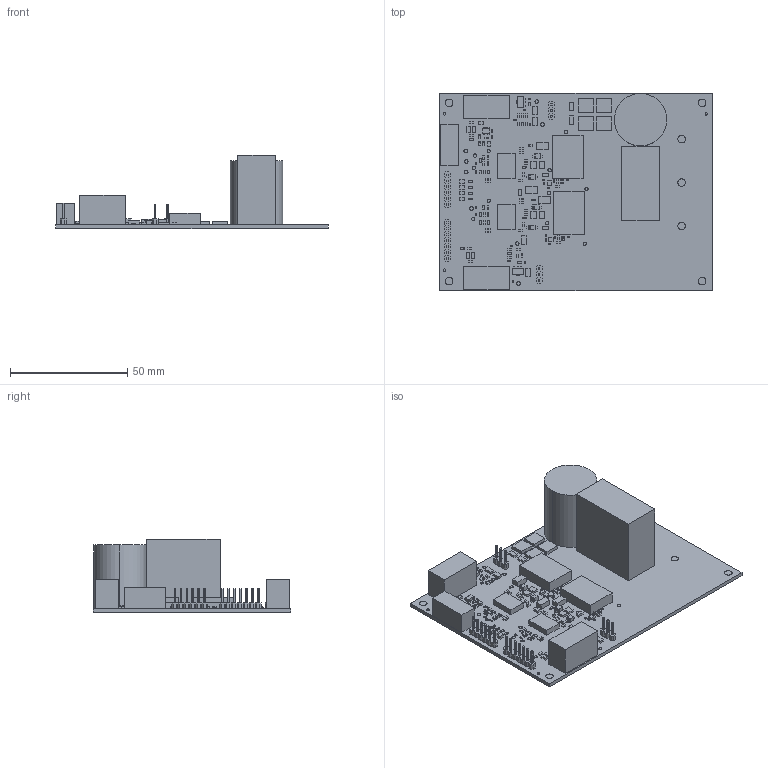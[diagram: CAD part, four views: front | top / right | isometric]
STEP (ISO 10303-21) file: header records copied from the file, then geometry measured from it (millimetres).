
FILE_DESCRIPTION(/* description */ ('PCB Design'),/* implementation_level */ '2;1');
FILE_NAME(/* name */ 'EVLSTGAP3S6R2_3D',/* time_stamp */ '2025-01-10T10:58:14+01:00',/* author */ (''),/* organization */ (''),/* preprocessor_version */ 'ST-DEVELOPER v16',/* originating_system */ 'allegro_17.2S078',/* authorisation */ '');
FILE_SCHEMA (('AUTOMOTIVE_DESIGN { 1 0 10303 214 3 1 1 }'));
Length unit declared in the file: millimetre
Products named in the file (38): EVLSTGAP3S6-R2_250110; BOARD_OUTLINE; COMPONENTS; D2PAK; H2PAK-7; SOT-89; CAPE-R22H50-P100; STRIP_3V; PAD-10F3_2; C0402; DO-214AC; HOLE3_2PAD6_5; FIDUCIAL1MM; SOD-123; TP-1_5; TP-F0_8_PAD_1_35; C1206; R0402; R1210; R0603; R1206; LED-0805; CAP-RAD-16X31_5H29_5P27_5; R0805; SOD-523; C2225; C0805; C0603; SOT23-5L; MORS_WR-TBL_691243110005_5P_3V5; CONV_MGJ2; STRIP_6V; STRIP_7V; POWERFLAT6-2X2_P065-E; SO16_L10_4; Document
Assembly tree (184 placements, depth 4):
  EVLSTGAP3S6-R2_250110
    BOARD_OUTLINE
    COMPONENTS
      D2PAK  x2
      H2PAK-7  x2
        Document
      SOT-89  x2
      CAPE-R22H50-P100
      STRIP_3V  x2
      PAD-10F3_2  x3
      C0402  x2
      DO-214AC  x3
      HOLE3_2PAD6_5  x4
      FIDUCIAL1MM  x3
      SOD-123  x4
      TP-1_5  x9
      TP-F0_8_PAD_1_35  x10
      C1206  x4
      R0402  x28
        Document
      R1210  x4
      R0603  x26
        Document
      R1206  x2
      LED-0805  x4
      CAP-RAD-16X31_5H29_5P27_5
      R0805  x7
      SOD-523  x6
      C2225  x4
      C0805  x2
      C0603  x34
      SOT23-5L
      MORS_WR-TBL_691243110005_5P_3V5
      CONV_MGJ2  x2
      STRIP_6V
      STRIP_7V
      POWERFLAT6-2X2_P065-E  x2
      SO16_L10_4  x2
Bounding box: 116 x 84 x 31.12 mm (x, y, z)
Volume: 783.1 mm3; surface area: 36020.6 mm2
Topology: 234 solids, 407 shells, 2944 faces, 6427 edges, 4140 vertices
Faces by surface type: plane 1942, bspline 938, cylinder 64
Entity records: 30234 total; most frequent: CARTESIAN_POINT 9379, ORIENTED_EDGE 3998, EDGE_CURVE 2059, DIRECTION 2023, VERTEX_POINT 1438, VECTOR 1178, LINE 1178, AXIS2_PLACEMENT_3D 1002
